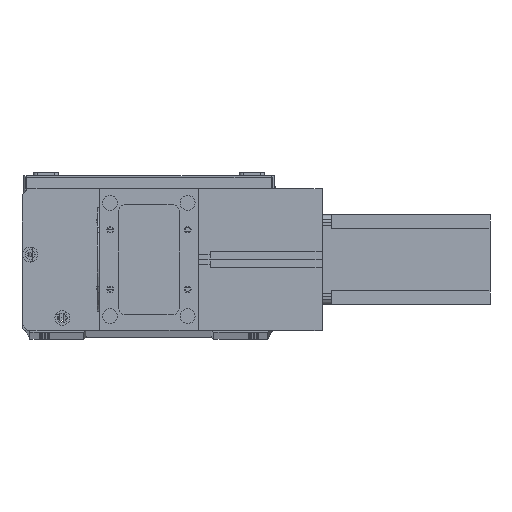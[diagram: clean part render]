
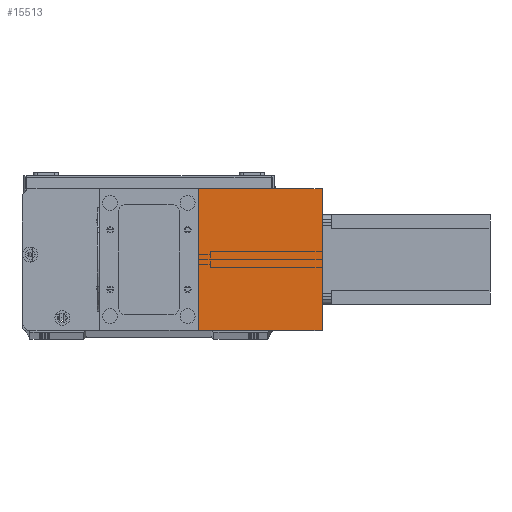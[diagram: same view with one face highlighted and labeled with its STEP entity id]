
A CAD part, top view. The second image highlights one B-rep face of the part: STEP entity #15513.
In plain terms, the highlighted planar face has unit normal (0, 0, 1) as drawn and (1, 0, 0) by its records, which use the part's own axes.
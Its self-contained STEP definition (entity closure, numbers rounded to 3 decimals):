
#177 = CARTESIAN_POINT ( 'NONE',  ( 82., 0., 83. ) ) ;
#2219 = ORIENTED_EDGE ( 'NONE', *, *, #6529, .T. ) ;
#3491 = CARTESIAN_POINT ( 'NONE',  ( 82., 0., 83. ) ) ;
#3763 = EDGE_LOOP ( 'NONE', ( #11284, #16461, #30196, #2219 ) ) ;
#3966 = CARTESIAN_POINT ( 'NONE',  ( 82., 95., 83. ) ) ;
#4370 = VERTEX_POINT ( 'NONE', #29984 ) ;
#4586 = LINE ( 'NONE', #19283, #29120 ) ;
#5262 = CARTESIAN_POINT ( 'NONE',  ( 82., 95., 0. ) ) ;
#5990 = LINE ( 'NONE', #28773, #10903 ) ;
#6529 = EDGE_CURVE ( 'NONE', #25962, #4370, #25039, .T. ) ;
#8675 = DIRECTION ( 'NONE',  ( -1., 0., 0. ) ) ;
#10903 = VECTOR ( 'NONE', #17096, 1000. ) ;
#11284 = ORIENTED_EDGE ( 'NONE', *, *, #22587, .T. ) ;
#13363 = CARTESIAN_POINT ( 'NONE',  ( 82., 0., 83. ) ) ;
#15513 = ADVANCED_FACE ( 'NONE', ( #27973 ), #18220, .F. ) ;
#16461 = ORIENTED_EDGE ( 'NONE', *, *, #24134, .F. ) ;
#16712 = VERTEX_POINT ( 'NONE', #5262 ) ;
#17096 = DIRECTION ( 'NONE',  ( 0., 1., 0. ) ) ;
#18220 = PLANE ( 'NONE',  #21493 ) ;
#19283 = CARTESIAN_POINT ( 'NONE',  ( 82., 95., 83. ) ) ;
#20659 = VECTOR ( 'NONE', #27579, 1000. ) ;
#21493 = AXIS2_PLACEMENT_3D ( 'NONE', #13363, #8675, #25306 ) ;
#21657 = DIRECTION ( 'NONE',  ( 0., 0., -1. ) ) ;
#22587 = EDGE_CURVE ( 'NONE', #4370, #16712, #26901, .T. ) ;
#23220 = VERTEX_POINT ( 'NONE', #3966 ) ;
#24134 = EDGE_CURVE ( 'NONE', #23220, #16712, #4586, .T. ) ;
#24308 = VECTOR ( 'NONE', #30673, 1000. ) ;
#25039 = LINE ( 'NONE', #177, #24308 ) ;
#25306 = DIRECTION ( 'NONE',  ( 0., 0., 1. ) ) ;
#25962 = VERTEX_POINT ( 'NONE', #3491 ) ;
#26901 = LINE ( 'NONE', #29850, #20659 ) ;
#27284 = EDGE_CURVE ( 'NONE', #25962, #23220, #5990, .T. ) ;
#27579 = DIRECTION ( 'NONE',  ( 0., 1., 0. ) ) ;
#27973 = FACE_OUTER_BOUND ( 'NONE', #3763, .T. ) ;
#28773 = CARTESIAN_POINT ( 'NONE',  ( 82., 0., 83. ) ) ;
#29120 = VECTOR ( 'NONE', #21657, 1000. ) ;
#29850 = CARTESIAN_POINT ( 'NONE',  ( 82., 0., 0. ) ) ;
#29984 = CARTESIAN_POINT ( 'NONE',  ( 82., 0., 0. ) ) ;
#30196 = ORIENTED_EDGE ( 'NONE', *, *, #27284, .F. ) ;
#30673 = DIRECTION ( 'NONE',  ( 0., 0., -1. ) ) ;
